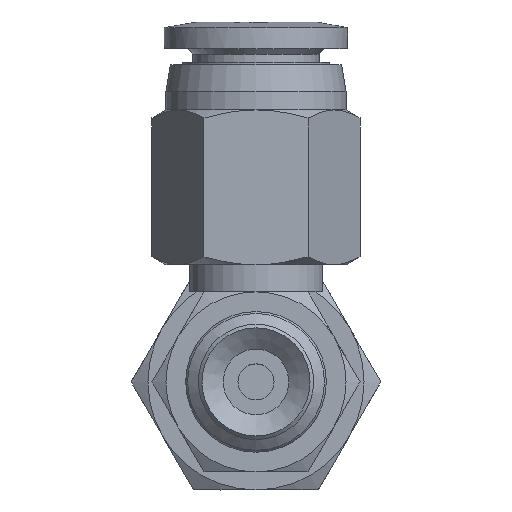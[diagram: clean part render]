
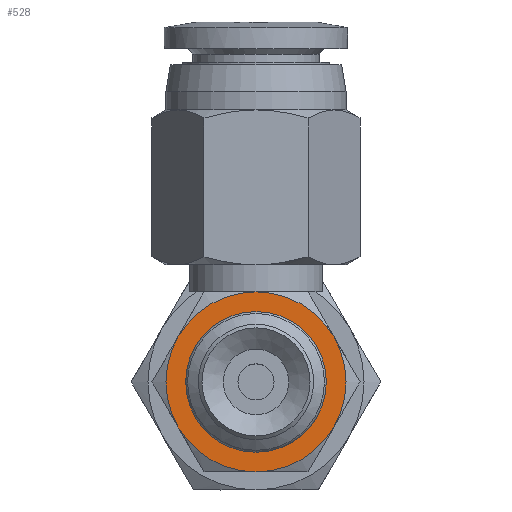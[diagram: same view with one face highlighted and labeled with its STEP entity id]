
A CAD part, front view. The second image highlights one B-rep face of the part: STEP entity #528.
In plain terms, the highlighted planar face has unit normal (0, -1, 0).
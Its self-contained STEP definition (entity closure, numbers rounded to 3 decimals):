
#528=ADVANCED_FACE('',(#797,#798),#799,.T.);
#797=FACE_BOUND('',#1214,.T.);
#798=FACE_OUTER_BOUND('',#1215,.T.);
#799=PLANE('',#1216);
#1214=EDGE_LOOP('',(#2184));
#1215=EDGE_LOOP('',(#2185,#2186,#2187,#2188,#2189,#2190));
#1216=AXIS2_PLACEMENT_3D('',#2191,#2192,#2193);
#2184=ORIENTED_EDGE('',*,*,#2886,.F.);
#2185=ORIENTED_EDGE('',*,*,#2927,.T.);
#2186=ORIENTED_EDGE('',*,*,#2868,.T.);
#2187=ORIENTED_EDGE('',*,*,#2856,.T.);
#2188=ORIENTED_EDGE('',*,*,#2884,.T.);
#2189=ORIENTED_EDGE('',*,*,#2928,.T.);
#2190=ORIENTED_EDGE('',*,*,#2929,.T.);
#2191=CARTESIAN_POINT('',(2.0,0.,0.0));
#2192=DIRECTION('',(0.0,-1.0,0.0));
#2193=DIRECTION('',(0.0,0.0,-1.0));
#2856=EDGE_CURVE('',#3208,#3219,#3221,.T.);
#2868=EDGE_CURVE('',#3232,#3208,#3241,.T.);
#2884=EDGE_CURVE('',#3219,#3252,#3267,.T.);
#2886=EDGE_CURVE('',#3270,#3270,#3271,.T.);
#2927=EDGE_CURVE('',#3242,#3232,#3346,.T.);
#2928=EDGE_CURVE('',#3252,#3263,#3347,.T.);
#2929=EDGE_CURVE('',#3263,#3242,#3348,.T.);
#3208=VERTEX_POINT('',#3996);
#3219=VERTEX_POINT('',#4017);
#3221=CIRCLE('',#4021,5.0);
#3232=VERTEX_POINT('',#4039);
#3241=CIRCLE('',#4057,5.0);
#3242=VERTEX_POINT('',#4058);
#3252=VERTEX_POINT('',#4077);
#3263=VERTEX_POINT('',#4099);
#3267=CIRCLE('',#4109,5.0);
#3270=VERTEX_POINT('',#4112);
#3271=CIRCLE('',#4113,2.0);
#3346=CIRCLE('',#4265,5.0);
#3347=CIRCLE('',#4266,5.0);
#3348=CIRCLE('',#4267,5.0);
#3996=CARTESIAN_POINT('',(4.33,0.0,2.5));
#4017=CARTESIAN_POINT('',(0.0,0.0,5.0));
#4021=AXIS2_PLACEMENT_3D('',#4928,#4929,#4930);
#4039=CARTESIAN_POINT('',(4.33,0.0,-2.5));
#4057=AXIS2_PLACEMENT_3D('',#4939,#4940,#4941);
#4058=CARTESIAN_POINT('',(0.0,0.0,-5.0));
#4077=CARTESIAN_POINT('',(-4.33,0.,2.5));
#4099=CARTESIAN_POINT('',(-4.33,0.0,-2.5));
#4109=AXIS2_PLACEMENT_3D('',#4947,#4948,#4949);
#4112=CARTESIAN_POINT('',(0.0,0.,-2.0));
#4113=AXIS2_PLACEMENT_3D('',#4953,#4954,#4955);
#4265=AXIS2_PLACEMENT_3D('',#5024,#5025,#5026);
#4266=AXIS2_PLACEMENT_3D('',#5027,#5028,#5029);
#4267=AXIS2_PLACEMENT_3D('',#5030,#5031,#5032);
#4928=CARTESIAN_POINT('',(0.0,0.,0.0));
#4929=DIRECTION('',(0.0,-1.0,0.0));
#4930=DIRECTION('',(0.0,0.0,-1.0));
#4939=CARTESIAN_POINT('',(0.0,0.,0.0));
#4940=DIRECTION('',(0.0,-1.0,0.0));
#4941=DIRECTION('',(0.0,0.0,-1.0));
#4947=CARTESIAN_POINT('',(0.0,0.,0.0));
#4948=DIRECTION('',(0.0,-1.0,0.0));
#4949=DIRECTION('',(0.0,0.0,-1.0));
#4953=CARTESIAN_POINT('',(0.0,0.,0.0));
#4954=DIRECTION('',(0.0,-1.0,0.0));
#4955=DIRECTION('',(0.0,0.0,-1.0));
#5024=CARTESIAN_POINT('',(0.0,0.,0.0));
#5025=DIRECTION('',(0.0,-1.0,0.0));
#5026=DIRECTION('',(0.0,0.0,-1.0));
#5027=CARTESIAN_POINT('',(0.0,0.,0.0));
#5028=DIRECTION('',(0.0,-1.0,0.0));
#5029=DIRECTION('',(0.0,0.0,-1.0));
#5030=CARTESIAN_POINT('',(0.0,0.,0.0));
#5031=DIRECTION('',(0.0,-1.0,0.0));
#5032=DIRECTION('',(0.0,0.0,-1.0));
